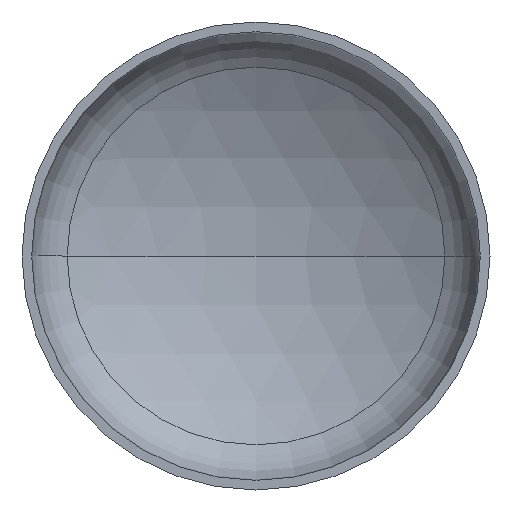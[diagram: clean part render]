
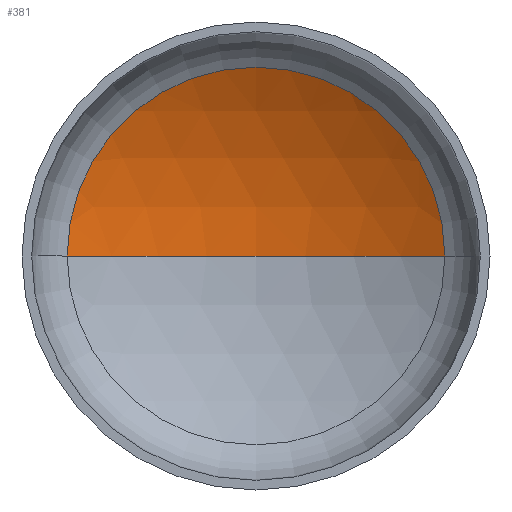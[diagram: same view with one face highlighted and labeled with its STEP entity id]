
A CAD part, front view. The second image highlights one B-rep face of the part: STEP entity #381.
In plain terms, the highlighted spherical face has radius 2560 mm.
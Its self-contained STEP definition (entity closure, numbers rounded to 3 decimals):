
#1 = AXIS2_PLACEMENT_3D ( 'NONE', #264, #68, #69 ) ;
#4 = AXIS2_PLACEMENT_3D ( 'NONE', #141, #147, #348 ) ;
#7 = AXIS2_PLACEMENT_3D ( 'NONE', #131, #389, #278 ) ;
#23 = EDGE_LOOP ( 'NONE', ( #208, #151, #91 ) ) ;
#68 = DIRECTION ( 'NONE',  ( 0., -1., 0. ) ) ;
#69 = DIRECTION ( 'NONE',  ( 1., 0., 0. ) ) ;
#86 = AXIS2_PLACEMENT_3D ( 'NONE', #287, #373, #367 ) ;
#88 = CIRCLE ( 'NONE', #1, 1291.13 ) ;
#91 = ORIENTED_EDGE ( 'NONE', *, *, #372, .T. ) ;
#96 = VERTEX_POINT ( 'NONE', #168 ) ;
#131 = CARTESIAN_POINT ( 'NONE',  ( 0., -1667.446, 0. ) ) ;
#141 = CARTESIAN_POINT ( 'NONE',  ( 0., -1667.446, 0. ) ) ;
#147 = DIRECTION ( 'NONE',  ( 0., 0., -1. ) ) ;
#151 = ORIENTED_EDGE ( 'NONE', *, *, #368, .T. ) ;
#168 = CARTESIAN_POINT ( 'NONE',  ( 1291.13, 543.115, 0. ) ) ;
#175 = SPHERICAL_SURFACE ( 'NONE', #86, 2560. ) ;
#186 = VERTEX_POINT ( 'NONE', #194 ) ;
#194 = CARTESIAN_POINT ( 'NONE',  ( -1291.13, 543.115, 0. ) ) ;
#200 = CIRCLE ( 'NONE', #7, 2560. ) ;
#208 = ORIENTED_EDGE ( 'NONE', *, *, #354, .F. ) ;
#213 = CARTESIAN_POINT ( 'NONE',  ( 0., 892.554, 0. ) ) ;
#223 = VERTEX_POINT ( 'NONE', #213 ) ;
#264 = CARTESIAN_POINT ( 'NONE',  ( 0., 543.115, 0. ) ) ;
#278 = DIRECTION ( 'NONE',  ( 1., 0., 0. ) ) ;
#287 = CARTESIAN_POINT ( 'NONE',  ( 0., -1667.446, 0. ) ) ;
#326 = FACE_OUTER_BOUND ( 'NONE', #23, .T. ) ;
#348 = DIRECTION ( 'NONE',  ( -1., 0., 0. ) ) ;
#354 = EDGE_CURVE ( 'NONE', #223, #186, #200, .T. ) ;
#367 = DIRECTION ( 'NONE',  ( -1., 0., 0. ) ) ;
#368 = EDGE_CURVE ( 'NONE', #223, #96, #386, .T. ) ;
#372 = EDGE_CURVE ( 'NONE', #96, #186, #88, .T. ) ;
#373 = DIRECTION ( 'NONE',  ( 0., 0., -1. ) ) ;
#381 = ADVANCED_FACE ( 'NONE', ( #326 ), #175, .F. ) ;
#386 = CIRCLE ( 'NONE', #4, 2560. ) ;
#389 = DIRECTION ( 'NONE',  ( 0., 0., 1. ) ) ;
